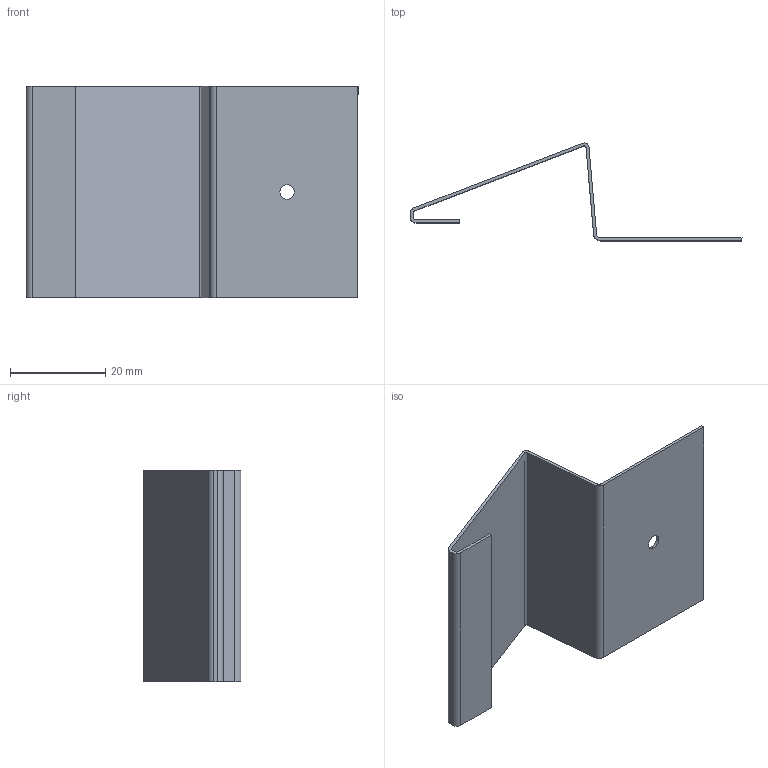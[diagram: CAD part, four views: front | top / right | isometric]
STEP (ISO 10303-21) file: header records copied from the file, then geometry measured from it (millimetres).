
FILE_DESCRIPTION (( 'STEP AP203' ), '1' );
FILE_NAME ('MS3-1.STEP', '2018-06-13T15:46:23', ( 'Michael Moliner' ), ( '' ), 'SwSTEP 2.0', 'SolidWorks 2018', '' );
FILE_SCHEMA (( 'CONFIG_CONTROL_DESIGN' ));
Length unit declared in the file: inch
Products named in the file (2): MS3-1
Bounding box: 69.85 x 20.57 x 44.45 mm (x, y, z)
Volume: 2863.5 mm3; surface area: 9210.5 mm2
Topology: 1 solids, 1 shells, 24 faces, 66 edges, 44 vertices
Faces by surface type: plane 14, cylinder 10
Entity records: 931 total; most frequent: DIRECTION 138, CARTESIAN_POINT 136, ORIENTED_EDGE 132, EDGE_CURVE 66, VECTOR 46, LINE 46, AXIS2_PLACEMENT_3D 46, VERTEX_POINT 44
